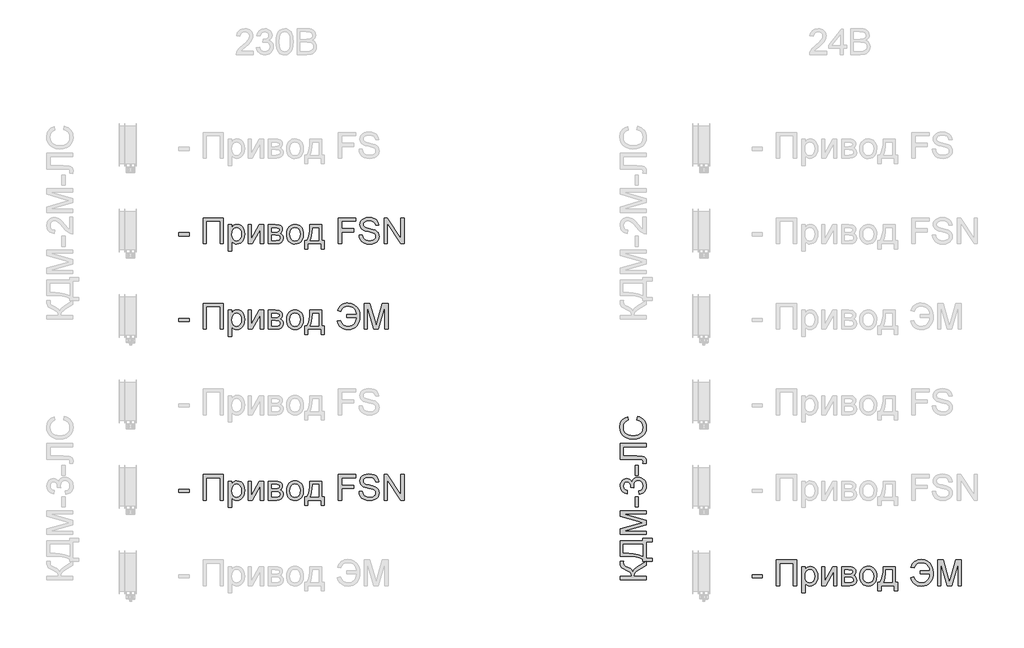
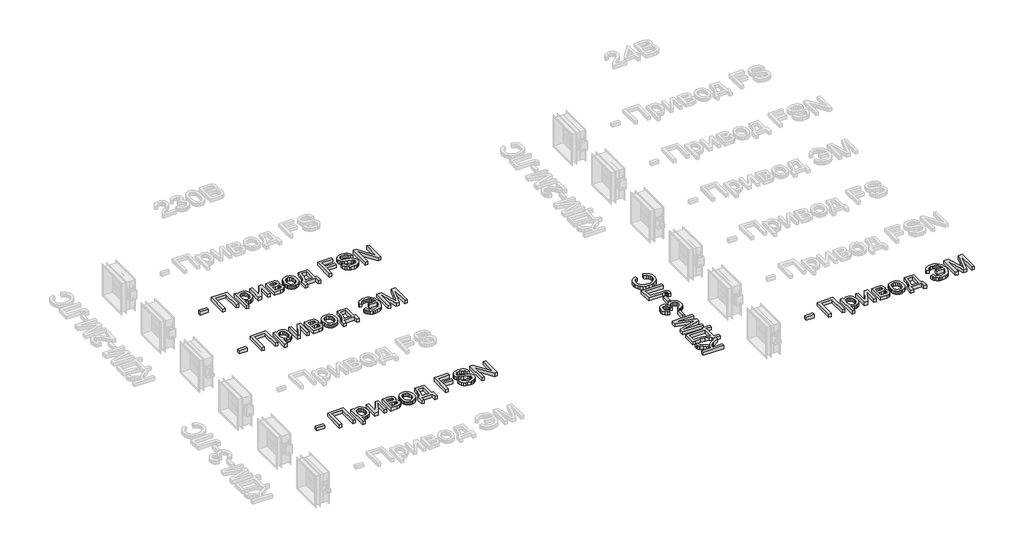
# One storey, part 2 of 23: 5 proxies.
"""IFC4 building model written with IfcOpenShell, lengths in millimetres."""

import ifcopenshell
import ifcopenshell.guid

model = None  # the IFC model being written
_history = None  # IfcOwnerHistory: only IFC2X3 demands one
_inside = {}  # id of a spatial element -> (the spatial element, [elements in it])
_under = {}  # id of a project, library or spatial element -> (it, [spatial elements below it])
_declared = {}  # id of a project -> (the project, [libraries it declares])
_typed = {}  # id of a type object -> (the type object, [elements of that type])
_made_of = {}  # id of a material, layer set ... -> (it, [elements and type objects made of it])


def new_model(schema):
    """Start an empty IFC model of exactly this schema.

    Asked for "IFC4X3", IfcOpenShell would pick the latest addendum, in which some entities
    have other attributes; the version numbers below select the first issue.
    IFC2X3 requires an IfcOwnerHistory on every rooted entity: one is made here for all.
    """
    global model, _history
    if schema == "IFC4X3":
        model = ifcopenshell.file(schema_version=(4, 3, 0, 0))
    else:
        model = ifcopenshell.file(schema=schema)
    _inside.clear()
    _under.clear()
    _declared.clear()
    _typed.clear()
    _made_of.clear()
    _history = None
    if model.schema == "IFC2X3":
        org = make("IfcOrganization", Name="unknown")
        user = make(
            "IfcPersonAndOrganization",
            ThePerson=make("IfcPerson", FamilyName="unknown"),
            TheOrganization=org,
        )
        app = make(
            "IfcApplication",
            ApplicationDeveloper=org,
            Version="unknown",
            ApplicationFullName="unknown",
            ApplicationIdentifier="unknown",
        )
        _history = make(
            "IfcOwnerHistory",
            OwningUser=user,
            OwningApplication=app,
            ChangeAction="ADDED",
            CreationDate=0,
        )
    return model


def make(cls, **values):
    """One entity of the class cls with the attributes given. An attribute that is None is left unset."""
    return model.create_entity(
        cls, **{name: value for name, value in values.items() if value is not None}
    )


def rooted(cls, **values):
    """An entity with a GlobalId (a new one), such as an element, a storey or a relation."""
    return make(cls, GlobalId=ifcopenshell.guid.new(), OwnerHistory=_history, **values)


def si_unit(unit_type, name, prefix=None):
    """IfcSIUnit, for example si_unit("LENGTHUNIT", "METRE", prefix="MILLI")."""
    return make("IfcSIUnit", UnitType=unit_type, Prefix=prefix, Name=name)


def assignment(units):
    """IfcUnitAssignment: the units of a project."""
    return None if units is None else make("IfcUnitAssignment", Units=units)


def point(xyz):
    """IfcCartesianPoint."""
    return None if xyz is None else make("IfcCartesianPoint", Coordinates=xyz)


def direction(xyz):
    """IfcDirection."""
    return None if xyz is None else make("IfcDirection", DirectionRatios=xyz)


def frame(location, z_axis=None, x_axis=None):
    """IfcAxis2Placement3D, a coordinate frame: its origin and axes. An axis left out is left unset."""
    return make(
        "IfcAxis2Placement3D",
        Location=point(location),
        Axis=direction(z_axis),
        RefDirection=direction(x_axis),
    )


def origin():
    """The frame at (0, 0, 0) with its axes left unset."""
    return frame((0.0, 0.0, 0.0))


def origin_with_axes():
    """The frame at (0, 0, 0) with the z axis (0, 0, 1) and the x axis (1, 0, 0) written out."""
    return frame((0.0, 0.0, 0.0), z_axis=(0.0, 0.0, 1.0), x_axis=(1.0, 0.0, 0.0))


def place(relative_to, where):
    """IfcLocalPlacement: puts the frame where relative to a parent placement (None: the world)."""
    return make(
        "IfcLocalPlacement", PlacementRelTo=relative_to, RelativePlacement=where
    )


def context(
    kind, dimensions, precision=None, world=None, true_north=None, identifier=None
):
    """IfcGeometricRepresentationContext, for example the 3D "Model" context."""
    return make(
        "IfcGeometricRepresentationContext",
        ContextIdentifier=identifier,
        ContextType=kind,
        CoordinateSpaceDimension=dimensions,
        Precision=precision,
        WorldCoordinateSystem=world,
        TrueNorth=true_north,
    )


def project(units=None, contexts=None):
    """IfcProject with its units and contexts."""
    return rooted(
        "IfcProject",
        Name="project",
        RepresentationContexts=contexts,
        UnitsInContext=assignment(units),
    )


def spatial(cls, under=None, at=None, **own):
    """A site, building, storey or space (cls), placed at a placement, below another one or the project."""
    s = rooted(cls, ObjectPlacement=at, **own)
    if under is not None:
        _under.setdefault(under.id(), (under, []))[1].append(s)
    return s


def polyline(points):
    """IfcPolyline through the points."""
    return make("IfcPolyline", Points=[point(p) for p in points])


def outline(outer, holes=None, kind="AREA"):
    """IfcArbitraryClosedProfileDef: a profile drawn as a closed curve; with holes, ...WithVoids."""
    if holes is None:
        return make("IfcArbitraryClosedProfileDef", ProfileType=kind, OuterCurve=outer)
    return make(
        "IfcArbitraryProfileDefWithVoids",
        ProfileType=kind,
        OuterCurve=outer,
        InnerCurves=holes,
    )


def extrude(swept, where, along, depth):
    """IfcExtrudedAreaSolid: the profile swept, set in the frame where, extruded along a direction by depth."""
    return make(
        "IfcExtrudedAreaSolid",
        SweptArea=swept,
        Position=where,
        ExtrudedDirection=direction(along),
        Depth=depth,
    )


def shape(context_of_items, identifier, shape_type, items):
    """IfcShapeRepresentation: the items that make up one representation, for example the "Body"."""
    return make(
        "IfcShapeRepresentation",
        ContextOfItems=context_of_items,
        RepresentationIdentifier=identifier,
        RepresentationType=shape_type,
        Items=items,
    )


def made_of(thing, what):
    """Note that an element or type object is made of a material, layer set ...; save() writes the relation."""
    if what is not None:
        _made_of.setdefault(what.id(), (what, []))[1].append(thing)
    return thing


def element(
    cls,
    number,
    at=None,
    inside=None,
    cuts=None,
    type_object=None,
    material=None,
    context=None,
    identifier="Body",
    shape_type=None,
    held_by="IfcProductDefinitionShape",
    body=None,
    shapes=None,
    **own,
):
    """One element of the class cls, such as IfcWall. Its Tag is "e" and its number.

    at: its placement. inside: the storey or other place that contains it. cuts: it is an
    opening in that element (IfcRelVoidsElement). A single representation is given by context,
    identifier, shape_type and body (its items); several are given by shapes. held_by: the class
    of the entity that holds the representations. save() writes the other relations.
    """
    e = rooted(cls, Tag="e%d" % number, ObjectPlacement=at, **own)
    if body is not None:
        shapes = [shape(context, identifier, shape_type, body)]
    if shapes is not None:
        e.Representation = make(held_by, Representations=shapes)
    if inside is not None:
        _inside.setdefault(inside.id(), (inside, []))[1].append(e)
    if cuts is not None:
        rooted(
            "IfcRelVoidsElement", RelatingBuildingElement=cuts, RelatedOpeningElement=e
        )
    if type_object is not None:
        _typed.setdefault(type_object.id(), (type_object, []))[1].append(e)
    return made_of(e, material)


def aggregate(whole, parts):
    """IfcRelAggregates: a whole, such as a stair, and the parts it consists of."""
    return rooted("IfcRelAggregates", RelatingObject=whole, RelatedObjects=parts)


def save(model, path):
    """Write the relations noted so far, then the file.

    IfcRelAggregates (storeys below a building ...), IfcRelContainedInSpatialStructure (elements
    in a storey), IfcRelDefinesByType, IfcRelAssociatesMaterial and IfcRelDeclares: one each for
    every whole, place, type object, material and project.
    """
    for whole, parts in _under.values():
        aggregate(whole, parts)
    for where, things in _inside.values():
        rooted(
            "IfcRelContainedInSpatialStructure",
            RelatedElements=things,
            RelatingStructure=where,
        )
    for kind, things in _typed.values():
        rooted("IfcRelDefinesByType", RelatedObjects=things, RelatingType=kind)
    for what, things in _made_of.values():
        rooted("IfcRelAssociatesMaterial", RelatedObjects=things, RelatingMaterial=what)
    for by, libraries in _declared.values():
        rooted("IfcRelDeclares", RelatingContext=by, RelatedDefinitions=libraries)
    model.write(path)


model = new_model("IFC4")

# Units and contexts
model_context = context("Model", 3, world=origin())
ifc_project = project(units=[si_unit("LENGTHUNIT", "METRE", prefix="MILLI")], contexts=[model_context])

# Site, building, storey
site = spatial("IfcSite", under=ifc_project)
building = spatial("IfcBuilding", under=site)
storey = spatial("IfcBuildingStorey", under=building, Name="Этаж 01", Elevation=0.0)

# Proxies
placement = place(None, origin())
element("IfcBuildingElementProxy", 1, Name="300 мм Arial", ObjectType="300 мм Arial", at=placement, inside=storey, context=model_context, shape_type="SweptSolid", body=[
    extrude(outline(polyline([(2804.7738082, -16034.3206311), (2804.7738082, -15996.6495148), (2922.4960467, -15996.6495148), (2922.4960467, -16034.3206311), (2804.7738082, -16034.3206311)])), origin_with_axes(), (0.0, 0.0, 1.0), 50.0),
    extrude(outline(polyline([(3087.3071805, -15822.4206019), (3322.7516574, -15822.4206019), (3322.7516574, -16123.7895324), (3285.0805411, -16123.7895324), (3285.0805411, -15860.0917182), (3124.9782968, -15860.0917182), (3124.9782968, -16123.7895324), (3087.3071805, -16123.7895324), (3087.3071805, -15822.4206019)])), origin_with_axes(), (0.0, 0.0, 1.0), 50.0),
    extrude(outline(polyline([(3383.9672214, -16208.5495441), (3383.9672214, -15902.4717241), (3421.6383378, -15902.4717241), (3421.6383378, -15939.4070764), (3433.9255964, -15921.1877206), (3447.684383, -15908.173895), (3463.724038, -15900.3655996), (3482.8539017, -15897.7628345), (3508.3297299, -15901.4048663), (3530.6049847, -15912.3309615), (3548.7415671, -15929.8789327), (3561.8013779, -15953.3865922), (3569.6924467, -15981.1432887), (3572.322803, -16011.438371), (3569.3521559, -16043.6556368), (3560.4402145, -16072.469994), (3545.8720875, -16096.4191119), (3525.9328834, -16114.0406595), (3502.7103324, -16124.8839813), (3478.292165, -16128.4984219), (3460.9741201, -16126.0795978), (3445.5138792, -16118.8231254), (3432.2793245, -16107.869439), (3421.6383378, -16094.3589728), (3421.6383378, -16208.5495441), (3383.9672214, -16208.5495441)]), holes=[polyline([(3421.6383378, -16014.8964618), (3425.7126308, -16048.668029), (3437.9355101, -16072.286053), (3455.970925, -16086.1919925), (3477.4828246, -16090.8273056), (3499.3442122, -16086.0264456), (3517.8394795, -16071.6238655), (3530.4486349, -16047.1413187), (3534.6516867, -16012.1005586), (3530.5498024, -15978.5129325), (3518.2441497, -15954.5638146), (3500.236326, -15940.2164168), (3479.027929, -15935.4339508), (3457.7367585, -15940.5199194), (3439.0391561, -15955.7778252), (3425.9885423, -15980.7294215), (3421.6383378, -16014.8964618)])]), origin_with_axes(), (0.0, 0.0, 1.0), 50.0),
    extrude(outline(polyline([(3614.7028088, -15902.4717241), (3652.3739251, -15902.4717241), (3652.3739251, -16071.2559835), (3744.9330351, -15902.4717241), (3793.6406113, -15902.4717241), (3793.6406113, -16123.7895324), (3755.969495, -16123.7895324), (3755.969495, -15956.0353426), (3663.9989962, -16123.7895324), (3614.7028088, -16123.7895324), (3614.7028088, -15902.4717241)])), origin_with_axes(), (0.0, 0.0, 1.0), 50.0),
    extrude(outline(polyline([(3850.1472857, -15902.4717241), (3933.1414638, -15902.4717241), (3959.8221055, -15903.7317199), (3978.6484666, -15907.5117074), (3992.4992238, -15914.6486181), (4004.2530535, -15925.9793836), (4012.2820781, -15940.7406486), (4014.9584196, -15958.1690581), (4013.3397388, -15972.2129533), (4008.4836965, -15984.325468), (4000.3718985, -15994.5617845), (3988.9859507, -16002.9770852), (4002.9286783, -16010.8037746), (4014.296232, -16023.3945359), (4021.856207, -16039.7560876), (4024.3761986, -16058.8951484), (4017.993446, -16087.6083381), (4002.8183137, -16107.8234538), (3978.7956194, -16119.7980127), (3945.8701809, -16123.7895324), (3850.1472857, -16123.7895324), (3850.1472857, -15902.4717241)]), holes=[polyline([(3887.818402, -16086.1184161), (3934.0243806, -16086.1184161), (3959.2059032, -16084.4169618), (3975.0064349, -16079.3125992), (3983.4861149, -16070.0327758), (3986.7050823, -16055.8049397), (3985.0955986, -16046.3779635), (3980.2671474, -16037.6683573), (3972.8543252, -16030.8533433), (3963.4917284, -16027.110144), (3930.3455607, -16024.9028521), (3887.818402, -16024.9028521), (3887.818402, -16086.1184161)]), polyline([(3887.818402, -15987.2317358), (3925.04806, -15987.2317358), (3955.7662065, -15985.3187494), (3970.7022156, -15977.6668039), (3975.6410313, -15971.3392336), (3977.2873033, -15963.8344409), (3974.3994296, -15952.5956459), (3965.7358086, -15945.3667647), (3950.0824297, -15941.4488215), (3926.2252823, -15940.1428404), (3887.818402, -15940.1428404), (3887.818402, -15987.2317358)])]), origin_with_axes(), (0.0, 0.0, 1.0), 50.0),
    extrude(outline(polyline([(4062.047315, -16013.1306282), (4064.0844615, -15984.4680223), (4070.1959011, -15959.7693448), (4080.3816339, -15939.0345959), (4094.6416597, -15922.2637754), (4108.9982546, -15911.5446138), (4124.8447715, -15903.8880698), (4142.1812106, -15899.2941433), (4161.0075717, -15897.7628345), (4181.7906051, -15899.6275364), (4200.5824773, -15905.221642), (4217.3831882, -15914.5451513), (4232.1927377, -15927.5980643), (4244.2799605, -15943.9389227), (4252.9136911, -15963.126268), (4258.0939294, -15985.1601003), (4259.8206756, -16010.0404195), (4256.767255, -16048.0978119), (4247.6069933, -16077.068519), (4232.606605, -16098.7643596), (4212.0328044, -16114.9971527), (4187.5962429, -16125.1231046), (4161.0075717, -16128.4984219), (4139.9210355, -16126.6406178), (4120.9544194, -16121.0672056), (4104.1077233, -16111.7781852), (4089.3809472, -16098.7735567), (4077.4224831, -16082.2740492), (4068.880723, -16062.500392), (4063.755667, -16039.452585), (4062.047315, -16013.1306282)]), holes=[polyline([(4099.7184313, -16013.0570518), (4104.0778329, -16047.1505157), (4117.1560378, -16071.4399245), (4136.8377246, -16085.9804603), (4161.0075717, -16090.8273056), (4185.0670541, -16085.9528692), (4204.7119527, -16071.3295599), (4217.7901576, -16046.7182544), (4222.1495593, -16011.8798294), (4217.7625665, -15978.7796469), (4204.6015881, -15954.821332), (4184.9290984, -15940.2807961), (4161.0075717, -15935.4339508), (4136.8377246, -15940.262402), (4117.1560378, -15954.7477556), (4104.0778329, -15978.981982), (4099.7184313, -16013.0570518)])]), origin_with_axes(), (0.0, 0.0, 1.0), 50.0),
    extrude(outline(polyline([(4335.1629082, -15902.4717241), (4476.4295943, -15902.4717241), (4476.4295943, -16086.1184161), (4504.6829316, -16086.1184161), (4504.6829316, -16185.0050964), (4467.0118152, -16185.0050964), (4467.0118152, -16123.7895324), (4311.6184605, -16123.7895324), (4311.6184605, -16185.0050964), (4273.9473442, -16185.0050964), (4273.9473442, -16086.1184161), (4297.4917919, -16086.1184161), (4314.6075017, -16055.1887373), (4326.5912577, -16014.2710624), (4333.4430598, -15963.3653913), (4335.1629082, -15902.4717241)]), holes=[polyline([(4368.1251349, -15940.1428404), (4365.0349262, -15986.2660455), (4359.2959671, -16025.9697099), (4350.9082576, -16059.2538334), (4339.8717977, -16086.1184161), (4438.758478, -16086.1184161), (4438.758478, -15940.1428404), (4368.1251349, -15940.1428404)])]), origin_with_axes(), (0.0, 0.0, 1.0), 50.0),
    extrude(outline(polyline([(4669.4940654, -16123.7895324), (4669.4940654, -15822.4206019), (4871.9763155, -15822.4206019), (4871.9763155, -15860.0917182), (4707.1651817, -15860.0917182), (4707.1651817, -15949.5606195), (4848.4318678, -15949.5606195), (4848.4318678, -15987.2317358), (4707.1651817, -15987.2317358), (4707.1651817, -16123.7895324), (4669.4940654, -16123.7895324)])), origin_with_axes(), (0.0, 0.0, 1.0), 50.0),
    extrude(outline(polyline([(4909.6474318, -16020.1939625), (4947.3185481, -16020.1939625), (4951.6411616, -16041.0988569), (4959.458654, -16057.901867), (4971.6539421, -16071.2375894), (4989.1099428, -16081.7406203), (5010.4470985, -16088.5556343), (5034.2858518, -16090.8273056), (5055.2735196, -16089.1074573), (5073.6492253, -16083.9479123), (5088.539249, -16075.780932), (5099.0698712, -16065.0387777), (5105.3330621, -16052.7055339), (5107.4207924, -16039.7652847), (5105.857294, -16027.1561293), (5101.1667985, -16016.2576252), (5091.6386549, -16006.9594078), (5075.5622117, -15999.1511124), (5020.7110062, -15984.7669264), (4984.7045559, -15975.2479798), (4961.665946, -15966.1888856), (4942.9131613, -15953.5153509), (4929.6234242, -15938.1562776), (4921.7047642, -15920.4427595), (4919.0652109, -15900.7058905), (4922.3301636, -15878.6421678), (4932.1250217, -15858.0683673), (4948.1922679, -15840.6307607), (4970.2743846, -15827.97562), (4996.7802824, -15820.2776893), (5026.1188715, -15817.7117124), (5057.9038759, -15820.3972509), (5085.7157547, -15828.4538666), (5108.5612266, -15841.7160126), (5125.4470102, -15860.0181418), (5136.1339822, -15882.2198202), (5140.3830192, -15907.1806136), (5102.7119029, -15907.1806136), (5095.7957214, -15884.7030237), (5081.3747472, -15868.4794277), (5058.841975, -15858.6569784), (5027.5903995, -15855.3828287), (4995.60306, -15858.6201902), (4973.658899, -15868.3322749), (4960.9669702, -15882.6244904), (4956.7363272, -15899.6022445), (4959.7345655, -15914.078401), (4968.7292803, -15925.7218662), (4989.9928596, -15936.1329266), (5030.2391499, -15946.7647163), (5071.7730271, -15956.8630771), (5096.8993674, -15965.6738508), (5118.3744789, -15979.340667), (5133.3564731, -15996.2080564), (5142.1580498, -16016.0920783), (5145.0919088, -16038.8087915), (5141.7165914, -16062.0313424), (5131.5906395, -16083.8743359), (5115.1279202, -16102.6731058), (5092.7423008, -16116.7629863), (5065.8225358, -16125.564563), (5035.7573798, -16128.4984219), (4998.8496186, -16125.3346367), (4968.4717629, -16115.8432813), (4944.2743246, -16099.9875673), (4925.907816, -16077.7307066), (4914.1171981, -16050.6178035), (4909.6474318, -16020.1939625)])), origin_with_axes(), (0.0, 0.0, 1.0), 50.0),
    extrude(outline(polyline([(5201.5985832, -16123.7895324), (5201.5985832, -15822.4206019), (5241.9184499, -15822.4206019), (5399.3719438, -16061.1760168), (5399.3719438, -15822.4206019), (5437.0430601, -15822.4206019), (5437.0430601, -16123.7895324), (5396.7231935, -16123.7895324), (5239.2696995, -15884.9605411), (5239.2696995, -16123.7895324), (5201.5985832, -16123.7895324)])), origin_with_axes(), (0.0, 0.0, 1.0), 50.0),
])
element("IfcBuildingElementProxy", 2, Name="300 мм Arial", ObjectType="300 мм Arial", at=placement, inside=storey, context=model_context, shape_type="SweptSolid", body=[
    extrude(outline(polyline([(2804.7738082, -17034.3206311), (2804.7738082, -16996.6495148), (2922.4960467, -16996.6495148), (2922.4960467, -17034.3206311), (2804.7738082, -17034.3206311)])), origin_with_axes(), (0.0, 0.0, 1.0), 50.0),
    extrude(outline(polyline([(3087.3071805, -16822.4206019), (3322.7516574, -16822.4206019), (3322.7516574, -17123.7895324), (3285.0805411, -17123.7895324), (3285.0805411, -16860.0917182), (3124.9782968, -16860.0917182), (3124.9782968, -17123.7895324), (3087.3071805, -17123.7895324), (3087.3071805, -16822.4206019)])), origin_with_axes(), (0.0, 0.0, 1.0), 50.0),
    extrude(outline(polyline([(3383.9672214, -17208.5495441), (3383.9672214, -16902.4717241), (3421.6383378, -16902.4717241), (3421.6383378, -16939.4070764), (3433.9255964, -16921.1877206), (3447.684383, -16908.173895), (3463.724038, -16900.3655996), (3482.8539017, -16897.7628345), (3508.3297299, -16901.4048663), (3530.6049847, -16912.3309615), (3548.7415671, -16929.8789327), (3561.8013779, -16953.3865922), (3569.6924467, -16981.1432887), (3572.322803, -17011.438371), (3569.3521559, -17043.6556368), (3560.4402145, -17072.469994), (3545.8720875, -17096.4191119), (3525.9328834, -17114.0406595), (3502.7103324, -17124.8839813), (3478.292165, -17128.4984219), (3460.9741201, -17126.0795978), (3445.5138792, -17118.8231254), (3432.2793245, -17107.869439), (3421.6383378, -17094.3589728), (3421.6383378, -17208.5495441), (3383.9672214, -17208.5495441)]), holes=[polyline([(3421.6383378, -17014.8964618), (3425.7126308, -17048.668029), (3437.9355101, -17072.286053), (3455.970925, -17086.1919925), (3477.4828246, -17090.8273056), (3499.3442122, -17086.0264456), (3517.8394795, -17071.6238655), (3530.4486349, -17047.1413187), (3534.6516867, -17012.1005586), (3530.5498024, -16978.5129325), (3518.2441497, -16954.5638146), (3500.236326, -16940.2164168), (3479.027929, -16935.4339508), (3457.7367585, -16940.5199194), (3439.0391561, -16955.7778252), (3425.9885423, -16980.7294215), (3421.6383378, -17014.8964618)])]), origin_with_axes(), (0.0, 0.0, 1.0), 50.0),
    extrude(outline(polyline([(3614.7028088, -16902.4717241), (3652.3739251, -16902.4717241), (3652.3739251, -17071.2559835), (3744.9330351, -16902.4717241), (3793.6406113, -16902.4717241), (3793.6406113, -17123.7895324), (3755.969495, -17123.7895324), (3755.969495, -16956.0353426), (3663.9989962, -17123.7895324), (3614.7028088, -17123.7895324), (3614.7028088, -16902.4717241)])), origin_with_axes(), (0.0, 0.0, 1.0), 50.0),
    extrude(outline(polyline([(3850.1472857, -16902.4717241), (3933.1414638, -16902.4717241), (3959.8221055, -16903.7317199), (3978.6484666, -16907.5117074), (3992.4992238, -16914.6486181), (4004.2530535, -16925.9793836), (4012.2820781, -16940.7406486), (4014.9584196, -16958.1690581), (4013.3397388, -16972.2129533), (4008.4836965, -16984.325468), (4000.3718985, -16994.5617845), (3988.9859507, -17002.9770852), (4002.9286783, -17010.8037746), (4014.296232, -17023.3945359), (4021.856207, -17039.7560876), (4024.3761986, -17058.8951484), (4017.993446, -17087.6083381), (4002.8183137, -17107.8234538), (3978.7956194, -17119.7980127), (3945.8701809, -17123.7895324), (3850.1472857, -17123.7895324), (3850.1472857, -16902.4717241)]), holes=[polyline([(3887.818402, -17086.1184161), (3934.0243806, -17086.1184161), (3959.2059032, -17084.4169618), (3975.0064349, -17079.3125992), (3983.4861149, -17070.0327758), (3986.7050823, -17055.8049397), (3985.0955986, -17046.3779635), (3980.2671474, -17037.6683573), (3972.8543252, -17030.8533433), (3963.4917284, -17027.110144), (3930.3455607, -17024.9028521), (3887.818402, -17024.9028521), (3887.818402, -17086.1184161)]), polyline([(3887.818402, -16987.2317358), (3925.04806, -16987.2317358), (3955.7662065, -16985.3187494), (3970.7022156, -16977.6668039), (3975.6410313, -16971.3392336), (3977.2873033, -16963.8344409), (3974.3994296, -16952.5956459), (3965.7358086, -16945.3667647), (3950.0824297, -16941.4488215), (3926.2252823, -16940.1428404), (3887.818402, -16940.1428404), (3887.818402, -16987.2317358)])]), origin_with_axes(), (0.0, 0.0, 1.0), 50.0),
    extrude(outline(polyline([(4062.047315, -17013.1306282), (4064.0844615, -16984.4680223), (4070.1959011, -16959.7693448), (4080.3816339, -16939.0345959), (4094.6416597, -16922.2637754), (4108.9982546, -16911.5446138), (4124.8447715, -16903.8880698), (4142.1812106, -16899.2941433), (4161.0075717, -16897.7628345), (4181.7906051, -16899.6275364), (4200.5824773, -16905.221642), (4217.3831882, -16914.5451513), (4232.1927377, -16927.5980643), (4244.2799605, -16943.9389227), (4252.9136911, -16963.126268), (4258.0939294, -16985.1601003), (4259.8206756, -17010.0404195), (4256.767255, -17048.0978119), (4247.6069933, -17077.068519), (4232.606605, -17098.7643596), (4212.0328044, -17114.9971527), (4187.5962429, -17125.1231046), (4161.0075717, -17128.4984219), (4139.9210355, -17126.6406178), (4120.9544194, -17121.0672056), (4104.1077233, -17111.7781852), (4089.3809472, -17098.7735567), (4077.4224831, -17082.2740492), (4068.880723, -17062.500392), (4063.755667, -17039.452585), (4062.047315, -17013.1306282)]), holes=[polyline([(4099.7184313, -17013.0570518), (4104.0778329, -17047.1505157), (4117.1560378, -17071.4399245), (4136.8377246, -17085.9804603), (4161.0075717, -17090.8273056), (4185.0670541, -17085.9528692), (4204.7119527, -17071.3295599), (4217.7901576, -17046.7182544), (4222.1495593, -17011.8798294), (4217.7625665, -16978.7796469), (4204.6015881, -16954.821332), (4184.9290984, -16940.2807961), (4161.0075717, -16935.4339508), (4136.8377246, -16940.262402), (4117.1560378, -16954.7477556), (4104.0778329, -16978.981982), (4099.7184313, -17013.0570518)])]), origin_with_axes(), (0.0, 0.0, 1.0), 50.0),
    extrude(outline(polyline([(4335.1629082, -16902.4717241), (4476.4295943, -16902.4717241), (4476.4295943, -17086.1184161), (4504.6829316, -17086.1184161), (4504.6829316, -17185.0050964), (4467.0118152, -17185.0050964), (4467.0118152, -17123.7895324), (4311.6184605, -17123.7895324), (4311.6184605, -17185.0050964), (4273.9473442, -17185.0050964), (4273.9473442, -17086.1184161), (4297.4917919, -17086.1184161), (4314.6075017, -17055.1887373), (4326.5912577, -17014.2710624), (4333.4430598, -16963.3653913), (4335.1629082, -16902.4717241)]), holes=[polyline([(4368.1251349, -16940.1428404), (4365.0349262, -16986.2660455), (4359.2959671, -17025.9697099), (4350.9082576, -17059.2538334), (4339.8717977, -17086.1184161), (4438.758478, -17086.1184161), (4438.758478, -16940.1428404), (4368.1251349, -16940.1428404)])]), origin_with_axes(), (0.0, 0.0, 1.0), 50.0),
    extrude(outline(polyline([(4768.3807457, -16949.5606195), (4881.3940946, -16949.5606195), (4878.6947605, -16929.0121108), (4873.0983556, -16910.7030837), (4864.6048801, -16894.6335383), (4853.2143338, -16880.8034746), (4839.1520445, -16869.681942), (4822.64334, -16861.7379902), (4803.6882202, -16856.9716191), (4782.2866851, -16855.3828287), (4751.8674426, -16859.2088014), (4727.6378147, -16870.6867197), (4709.5978014, -16889.8165834), (4697.7474026, -16916.5983927), (4660.0762863, -16907.1806136), (4666.8637091, -16887.2873947), (4676.1895177, -16869.6934383), (4688.053712, -16854.3987444), (4702.4562922, -16841.4033129), (4719.0799598, -16831.0382377), (4737.6074168, -16823.6346125), (4758.0386631, -16819.1924374), (4780.3736987, -16817.7117124), (4821.4477235, -16823.1471689), (4856.3781189, -16839.4535383), (4884.1256184, -16864.2119966), (4903.6509553, -16895.0037196), (4915.211647, -16930.6054997), (4919.0652109, -16969.7941292), (4917.8925871, -17002.0136942), (4912.0938471, -17031.5707132), (4901.6689911, -17058.4651863), (4886.6180189, -17082.6971135), (4866.9777189, -17102.7351859), (4842.7848792, -17117.0480948), (4814.0394998, -17125.6358401), (4780.7415807, -17128.4984219), (4757.0545788, -17126.9533175), (4735.6576422, -17122.3180044), (4716.5507711, -17114.5924825), (4699.7339654, -17103.7767518), (4685.2072251, -17089.8708124), (4672.9705502, -17072.8746642), (4663.0239408, -17052.7883073), (4655.3673968, -17029.6117416), (4693.0385131, -17020.1939625), (4705.7672301, -17051.0960501), (4725.3385523, -17073.1689698), (4751.7524795, -17086.4127217), (4785.0090119, -17090.8273056), (4804.7182898, -17089.0936617), (4822.5697636, -17083.89273), (4838.5634333, -17075.2245105), (4852.699299, -17063.0890032), (4864.3979464, -17047.9460605), (4873.0799615, -17030.2555351), (4878.7453442, -17010.0174268), (4881.3940946, -16987.2317358), (4768.3807457, -16987.2317358), (4768.3807457, -16949.5606195)])), origin_with_axes(), (0.0, 0.0, 1.0), 50.0),
    extrude(outline(polyline([(4970.8629958, -17123.7895324), (4970.8629958, -16822.4206019), (5035.6838034, -16822.4206019), (5097.3408258, -17034.8356659), (5109.7752372, -17079.2022346), (5123.2397182, -17031.156846), (5183.866671, -16822.4206019), (5248.6874786, -16822.4206019), (5248.6874786, -17123.7895324), (5211.0163623, -17123.7895324), (5211.0163623, -16860.0917182), (5135.3062477, -17123.7895324), (5084.2442268, -17123.7895324), (5008.5341121, -16860.0917182), (5008.5341121, -17123.7895324), (4970.8629958, -17123.7895324)])), origin_with_axes(), (0.0, 0.0, 1.0), 50.0),
])
element("IfcBuildingElementProxy", 3, Name="300 мм Arial", ObjectType="300 мм Arial", at=placement, inside=storey, context=model_context, shape_type="SweptSolid", body=[
    extrude(outline(polyline([(2804.7738082, -19034.3206311), (2804.7738082, -18996.6495148), (2922.4960467, -18996.6495148), (2922.4960467, -19034.3206311), (2804.7738082, -19034.3206311)])), origin_with_axes(), (0.0, 0.0, 1.0), 50.0),
    extrude(outline(polyline([(3087.3071805, -18822.4206019), (3322.7516574, -18822.4206019), (3322.7516574, -19123.7895324), (3285.0805411, -19123.7895324), (3285.0805411, -18860.0917182), (3124.9782968, -18860.0917182), (3124.9782968, -19123.7895324), (3087.3071805, -19123.7895324), (3087.3071805, -18822.4206019)])), origin_with_axes(), (0.0, 0.0, 1.0), 50.0),
    extrude(outline(polyline([(3383.9672214, -19208.5495441), (3383.9672214, -18902.4717241), (3421.6383378, -18902.4717241), (3421.6383378, -18939.4070764), (3433.9255964, -18921.1877206), (3447.684383, -18908.173895), (3463.724038, -18900.3655996), (3482.8539017, -18897.7628345), (3508.3297299, -18901.4048663), (3530.6049847, -18912.3309615), (3548.7415671, -18929.8789327), (3561.8013779, -18953.3865922), (3569.6924467, -18981.1432887), (3572.322803, -19011.438371), (3569.3521559, -19043.6556368), (3560.4402145, -19072.469994), (3545.8720875, -19096.4191119), (3525.9328834, -19114.0406595), (3502.7103324, -19124.8839813), (3478.292165, -19128.4984219), (3460.9741201, -19126.0795978), (3445.5138792, -19118.8231254), (3432.2793245, -19107.869439), (3421.6383378, -19094.3589728), (3421.6383378, -19208.5495441), (3383.9672214, -19208.5495441)]), holes=[polyline([(3421.6383378, -19014.8964618), (3425.7126308, -19048.668029), (3437.9355101, -19072.286053), (3455.970925, -19086.1919925), (3477.4828246, -19090.8273056), (3499.3442122, -19086.0264456), (3517.8394795, -19071.6238655), (3530.4486349, -19047.1413187), (3534.6516867, -19012.1005586), (3530.5498024, -18978.5129325), (3518.2441497, -18954.5638146), (3500.236326, -18940.2164168), (3479.027929, -18935.4339508), (3457.7367585, -18940.5199194), (3439.0391561, -18955.7778252), (3425.9885423, -18980.7294215), (3421.6383378, -19014.8964618)])]), origin_with_axes(), (0.0, 0.0, 1.0), 50.0),
    extrude(outline(polyline([(3614.7028088, -18902.4717241), (3652.3739251, -18902.4717241), (3652.3739251, -19071.2559835), (3744.9330351, -18902.4717241), (3793.6406113, -18902.4717241), (3793.6406113, -19123.7895324), (3755.969495, -19123.7895324), (3755.969495, -18956.0353426), (3663.9989962, -19123.7895324), (3614.7028088, -19123.7895324), (3614.7028088, -18902.4717241)])), origin_with_axes(), (0.0, 0.0, 1.0), 50.0),
    extrude(outline(polyline([(3850.1472857, -18902.4717241), (3933.1414638, -18902.4717241), (3959.8221055, -18903.7317199), (3978.6484666, -18907.5117074), (3992.4992238, -18914.6486181), (4004.2530535, -18925.9793836), (4012.2820781, -18940.7406486), (4014.9584196, -18958.1690581), (4013.3397388, -18972.2129533), (4008.4836965, -18984.325468), (4000.3718985, -18994.5617845), (3988.9859507, -19002.9770852), (4002.9286783, -19010.8037746), (4014.296232, -19023.3945359), (4021.856207, -19039.7560876), (4024.3761986, -19058.8951484), (4017.993446, -19087.6083381), (4002.8183137, -19107.8234538), (3978.7956194, -19119.7980127), (3945.8701809, -19123.7895324), (3850.1472857, -19123.7895324), (3850.1472857, -18902.4717241)]), holes=[polyline([(3887.818402, -19086.1184161), (3934.0243806, -19086.1184161), (3959.2059032, -19084.4169618), (3975.0064349, -19079.3125992), (3983.4861149, -19070.0327758), (3986.7050823, -19055.8049397), (3985.0955986, -19046.3779635), (3980.2671474, -19037.6683573), (3972.8543252, -19030.8533433), (3963.4917284, -19027.110144), (3930.3455607, -19024.9028521), (3887.818402, -19024.9028521), (3887.818402, -19086.1184161)]), polyline([(3887.818402, -18987.2317358), (3925.04806, -18987.2317358), (3955.7662065, -18985.3187494), (3970.7022156, -18977.6668039), (3975.6410313, -18971.3392336), (3977.2873033, -18963.8344409), (3974.3994296, -18952.5956459), (3965.7358086, -18945.3667647), (3950.0824297, -18941.4488215), (3926.2252823, -18940.1428404), (3887.818402, -18940.1428404), (3887.818402, -18987.2317358)])]), origin_with_axes(), (0.0, 0.0, 1.0), 50.0),
    extrude(outline(polyline([(4062.047315, -19013.1306282), (4064.0844615, -18984.4680223), (4070.1959011, -18959.7693448), (4080.3816339, -18939.0345959), (4094.6416597, -18922.2637754), (4108.9982546, -18911.5446138), (4124.8447715, -18903.8880698), (4142.1812106, -18899.2941433), (4161.0075717, -18897.7628345), (4181.7906051, -18899.6275364), (4200.5824773, -18905.221642), (4217.3831882, -18914.5451513), (4232.1927377, -18927.5980643), (4244.2799605, -18943.9389227), (4252.9136911, -18963.126268), (4258.0939294, -18985.1601003), (4259.8206756, -19010.0404195), (4256.767255, -19048.0978119), (4247.6069933, -19077.068519), (4232.606605, -19098.7643596), (4212.0328044, -19114.9971527), (4187.5962429, -19125.1231046), (4161.0075717, -19128.4984219), (4139.9210355, -19126.6406178), (4120.9544194, -19121.0672056), (4104.1077233, -19111.7781852), (4089.3809472, -19098.7735567), (4077.4224831, -19082.2740492), (4068.880723, -19062.500392), (4063.755667, -19039.452585), (4062.047315, -19013.1306282)]), holes=[polyline([(4099.7184313, -19013.0570518), (4104.0778329, -19047.1505157), (4117.1560378, -19071.4399245), (4136.8377246, -19085.9804603), (4161.0075717, -19090.8273056), (4185.0670541, -19085.9528692), (4204.7119527, -19071.3295599), (4217.7901576, -19046.7182544), (4222.1495593, -19011.8798294), (4217.7625665, -18978.7796469), (4204.6015881, -18954.821332), (4184.9290984, -18940.2807961), (4161.0075717, -18935.4339508), (4136.8377246, -18940.262402), (4117.1560378, -18954.7477556), (4104.0778329, -18978.981982), (4099.7184313, -19013.0570518)])]), origin_with_axes(), (0.0, 0.0, 1.0), 50.0),
    extrude(outline(polyline([(4335.1629082, -18902.4717241), (4476.4295943, -18902.4717241), (4476.4295943, -19086.1184161), (4504.6829316, -19086.1184161), (4504.6829316, -19185.0050964), (4467.0118152, -19185.0050964), (4467.0118152, -19123.7895324), (4311.6184605, -19123.7895324), (4311.6184605, -19185.0050964), (4273.9473442, -19185.0050964), (4273.9473442, -19086.1184161), (4297.4917919, -19086.1184161), (4314.6075017, -19055.1887373), (4326.5912577, -19014.2710624), (4333.4430598, -18963.3653913), (4335.1629082, -18902.4717241)]), holes=[polyline([(4368.1251349, -18940.1428404), (4365.0349262, -18986.2660455), (4359.2959671, -19025.9697099), (4350.9082576, -19059.2538334), (4339.8717977, -19086.1184161), (4438.758478, -19086.1184161), (4438.758478, -18940.1428404), (4368.1251349, -18940.1428404)])]), origin_with_axes(), (0.0, 0.0, 1.0), 50.0),
    extrude(outline(polyline([(4669.4940654, -19123.7895324), (4669.4940654, -18822.4206019), (4871.9763155, -18822.4206019), (4871.9763155, -18860.0917182), (4707.1651817, -18860.0917182), (4707.1651817, -18949.5606195), (4848.4318678, -18949.5606195), (4848.4318678, -18987.2317358), (4707.1651817, -18987.2317358), (4707.1651817, -19123.7895324), (4669.4940654, -19123.7895324)])), origin_with_axes(), (0.0, 0.0, 1.0), 50.0),
    extrude(outline(polyline([(4909.6474318, -19020.1939625), (4947.3185481, -19020.1939625), (4951.6411616, -19041.0988569), (4959.458654, -19057.901867), (4971.6539421, -19071.2375894), (4989.1099428, -19081.7406203), (5010.4470985, -19088.5556343), (5034.2858518, -19090.8273056), (5055.2735196, -19089.1074573), (5073.6492253, -19083.9479123), (5088.539249, -19075.780932), (5099.0698712, -19065.0387777), (5105.3330621, -19052.7055339), (5107.4207924, -19039.7652847), (5105.857294, -19027.1561293), (5101.1667985, -19016.2576252), (5091.6386549, -19006.9594078), (5075.5622117, -18999.1511124), (5020.7110062, -18984.7669264), (4984.7045559, -18975.2479798), (4961.665946, -18966.1888856), (4942.9131613, -18953.5153509), (4929.6234242, -18938.1562776), (4921.7047642, -18920.4427595), (4919.0652109, -18900.7058905), (4922.3301636, -18878.6421678), (4932.1250217, -18858.0683673), (4948.1922679, -18840.6307607), (4970.2743846, -18827.97562), (4996.7802824, -18820.2776893), (5026.1188715, -18817.7117124), (5057.9038759, -18820.3972509), (5085.7157547, -18828.4538666), (5108.5612266, -18841.7160126), (5125.4470102, -18860.0181418), (5136.1339822, -18882.2198202), (5140.3830192, -18907.1806136), (5102.7119029, -18907.1806136), (5095.7957214, -18884.7030237), (5081.3747472, -18868.4794277), (5058.841975, -18858.6569784), (5027.5903995, -18855.3828287), (4995.60306, -18858.6201902), (4973.658899, -18868.3322749), (4960.9669702, -18882.6244904), (4956.7363272, -18899.6022445), (4959.7345655, -18914.078401), (4968.7292803, -18925.7218662), (4989.9928596, -18936.1329266), (5030.2391499, -18946.7647163), (5071.7730271, -18956.8630771), (5096.8993674, -18965.6738508), (5118.3744789, -18979.340667), (5133.3564731, -18996.2080564), (5142.1580498, -19016.0920783), (5145.0919088, -19038.8087915), (5141.7165914, -19062.0313424), (5131.5906395, -19083.8743359), (5115.1279202, -19102.6731058), (5092.7423008, -19116.7629863), (5065.8225358, -19125.564563), (5035.7573798, -19128.4984219), (4998.8496186, -19125.3346367), (4968.4717629, -19115.8432813), (4944.2743246, -19099.9875673), (4925.907816, -19077.7307066), (4914.1171981, -19050.6178035), (4909.6474318, -19020.1939625)])), origin_with_axes(), (0.0, 0.0, 1.0), 50.0),
    extrude(outline(polyline([(5201.5985832, -19123.7895324), (5201.5985832, -18822.4206019), (5241.9184499, -18822.4206019), (5399.3719438, -19061.1760168), (5399.3719438, -18822.4206019), (5437.0430601, -18822.4206019), (5437.0430601, -19123.7895324), (5396.7231935, -19123.7895324), (5239.2696995, -18884.9605411), (5239.2696995, -19123.7895324), (5201.5985832, -19123.7895324)])), origin_with_axes(), (0.0, 0.0, 1.0), 50.0),
])
element("IfcBuildingElementProxy", 4, Name="300 мм Arial", ObjectType="300 мм Arial", at=placement, inside=storey, context=model_context, shape_type="SweptSolid", body=[
    extrude(outline(polyline([(9504.7738082, -20034.3206311), (9504.7738082, -19996.6495148), (9622.4960467, -19996.6495148), (9622.4960467, -20034.3206311), (9504.7738082, -20034.3206311)])), origin_with_axes(), (0.0, 0.0, 1.0), 50.0),
    extrude(outline(polyline([(9787.3071805, -19822.4206019), (10022.7516574, -19822.4206019), (10022.7516574, -20123.7895324), (9985.0805411, -20123.7895324), (9985.0805411, -19860.0917182), (9824.9782968, -19860.0917182), (9824.9782968, -20123.7895324), (9787.3071805, -20123.7895324), (9787.3071805, -19822.4206019)])), origin_with_axes(), (0.0, 0.0, 1.0), 50.0),
    extrude(outline(polyline([(10083.9672214, -20208.5495441), (10083.9672214, -19902.4717241), (10121.6383378, -19902.4717241), (10121.6383378, -19939.4070764), (10133.9255964, -19921.1877206), (10147.684383, -19908.173895), (10163.724038, -19900.3655996), (10182.8539017, -19897.7628345), (10208.3297299, -19901.4048663), (10230.6049847, -19912.3309615), (10248.7415671, -19929.8789327), (10261.8013779, -19953.3865922), (10269.6924467, -19981.1432887), (10272.322803, -20011.438371), (10269.3521559, -20043.6556368), (10260.4402145, -20072.469994), (10245.8720875, -20096.4191119), (10225.9328834, -20114.0406595), (10202.7103324, -20124.8839813), (10178.292165, -20128.4984219), (10160.9741201, -20126.0795978), (10145.5138792, -20118.8231254), (10132.2793245, -20107.869439), (10121.6383378, -20094.3589728), (10121.6383378, -20208.5495441), (10083.9672214, -20208.5495441)]), holes=[polyline([(10121.6383378, -20014.8964618), (10125.7126308, -20048.668029), (10137.9355101, -20072.286053), (10155.970925, -20086.1919925), (10177.4828246, -20090.8273056), (10199.3442122, -20086.0264456), (10217.8394795, -20071.6238655), (10230.4486349, -20047.1413187), (10234.6516867, -20012.1005586), (10230.5498024, -19978.5129325), (10218.2441497, -19954.5638146), (10200.236326, -19940.2164168), (10179.027929, -19935.4339508), (10157.7367585, -19940.5199194), (10139.0391561, -19955.7778252), (10125.9885423, -19980.7294215), (10121.6383378, -20014.8964618)])]), origin_with_axes(), (0.0, 0.0, 1.0), 50.0),
    extrude(outline(polyline([(10314.7028088, -19902.4717241), (10352.3739251, -19902.4717241), (10352.3739251, -20071.2559835), (10444.9330351, -19902.4717241), (10493.6406113, -19902.4717241), (10493.6406113, -20123.7895324), (10455.969495, -20123.7895324), (10455.969495, -19956.0353426), (10363.9989962, -20123.7895324), (10314.7028088, -20123.7895324), (10314.7028088, -19902.4717241)])), origin_with_axes(), (0.0, 0.0, 1.0), 50.0),
    extrude(outline(polyline([(10550.1472857, -19902.4717241), (10633.1414638, -19902.4717241), (10659.8221055, -19903.7317199), (10678.6484666, -19907.5117074), (10692.4992238, -19914.6486181), (10704.2530535, -19925.9793836), (10712.2820781, -19940.7406486), (10714.9584196, -19958.1690581), (10713.3397388, -19972.2129533), (10708.4836965, -19984.325468), (10700.3718985, -19994.5617845), (10688.9859507, -20002.9770852), (10702.9286783, -20010.8037746), (10714.296232, -20023.3945359), (10721.856207, -20039.7560876), (10724.3761986, -20058.8951484), (10717.993446, -20087.6083381), (10702.8183137, -20107.8234538), (10678.7956194, -20119.7980127), (10645.8701809, -20123.7895324), (10550.1472857, -20123.7895324), (10550.1472857, -19902.4717241)]), holes=[polyline([(10587.818402, -20086.1184161), (10634.0243806, -20086.1184161), (10659.2059032, -20084.4169618), (10675.0064349, -20079.3125992), (10683.4861149, -20070.0327758), (10686.7050823, -20055.8049397), (10685.0955986, -20046.3779635), (10680.2671474, -20037.6683573), (10672.8543252, -20030.8533433), (10663.4917284, -20027.110144), (10630.3455607, -20024.9028521), (10587.818402, -20024.9028521), (10587.818402, -20086.1184161)]), polyline([(10587.818402, -19987.2317358), (10625.04806, -19987.2317358), (10655.7662065, -19985.3187494), (10670.7022156, -19977.6668039), (10675.6410313, -19971.3392336), (10677.2873033, -19963.8344409), (10674.3994296, -19952.5956459), (10665.7358086, -19945.3667647), (10650.0824297, -19941.4488215), (10626.2252823, -19940.1428404), (10587.818402, -19940.1428404), (10587.818402, -19987.2317358)])]), origin_with_axes(), (0.0, 0.0, 1.0), 50.0),
    extrude(outline(polyline([(10762.047315, -20013.1306282), (10764.0844615, -19984.4680223), (10770.1959011, -19959.7693448), (10780.3816339, -19939.0345959), (10794.6416597, -19922.2637754), (10808.9982546, -19911.5446138), (10824.8447715, -19903.8880698), (10842.1812106, -19899.2941433), (10861.0075717, -19897.7628345), (10881.7906051, -19899.6275364), (10900.5824773, -19905.221642), (10917.3831882, -19914.5451513), (10932.1927377, -19927.5980643), (10944.2799605, -19943.9389227), (10952.9136911, -19963.126268), (10958.0939294, -19985.1601003), (10959.8206756, -20010.0404195), (10956.767255, -20048.0978119), (10947.6069933, -20077.068519), (10932.606605, -20098.7643596), (10912.0328044, -20114.9971527), (10887.5962429, -20125.1231046), (10861.0075717, -20128.4984219), (10839.9210355, -20126.6406178), (10820.9544194, -20121.0672056), (10804.1077233, -20111.7781852), (10789.3809472, -20098.7735567), (10777.4224831, -20082.2740492), (10768.880723, -20062.500392), (10763.755667, -20039.452585), (10762.047315, -20013.1306282)]), holes=[polyline([(10799.7184313, -20013.0570518), (10804.0778329, -20047.1505157), (10817.1560378, -20071.4399245), (10836.8377246, -20085.9804603), (10861.0075717, -20090.8273056), (10885.0670541, -20085.9528692), (10904.7119527, -20071.3295599), (10917.7901576, -20046.7182544), (10922.1495593, -20011.8798294), (10917.7625665, -19978.7796469), (10904.6015881, -19954.821332), (10884.9290984, -19940.2807961), (10861.0075717, -19935.4339508), (10836.8377246, -19940.262402), (10817.1560378, -19954.7477556), (10804.0778329, -19978.981982), (10799.7184313, -20013.0570518)])]), origin_with_axes(), (0.0, 0.0, 1.0), 50.0),
    extrude(outline(polyline([(11035.1629082, -19902.4717241), (11176.4295943, -19902.4717241), (11176.4295943, -20086.1184161), (11204.6829316, -20086.1184161), (11204.6829316, -20185.0050964), (11167.0118152, -20185.0050964), (11167.0118152, -20123.7895324), (11011.6184605, -20123.7895324), (11011.6184605, -20185.0050964), (10973.9473442, -20185.0050964), (10973.9473442, -20086.1184161), (10997.4917919, -20086.1184161), (11014.6075017, -20055.1887373), (11026.5912577, -20014.2710624), (11033.4430598, -19963.3653913), (11035.1629082, -19902.4717241)]), holes=[polyline([(11068.1251349, -19940.1428404), (11065.0349262, -19986.2660455), (11059.2959671, -20025.9697099), (11050.9082576, -20059.2538334), (11039.8717977, -20086.1184161), (11138.758478, -20086.1184161), (11138.758478, -19940.1428404), (11068.1251349, -19940.1428404)])]), origin_with_axes(), (0.0, 0.0, 1.0), 50.0),
    extrude(outline(polyline([(11468.3807457, -19949.5606195), (11581.3940946, -19949.5606195), (11578.6947605, -19929.0121108), (11573.0983556, -19910.7030837), (11564.6048801, -19894.6335383), (11553.2143338, -19880.8034746), (11539.1520445, -19869.681942), (11522.64334, -19861.7379902), (11503.6882202, -19856.9716191), (11482.2866851, -19855.3828287), (11451.8674426, -19859.2088014), (11427.6378147, -19870.6867197), (11409.5978014, -19889.8165834), (11397.7474026, -19916.5983927), (11360.0762863, -19907.1806136), (11366.8637091, -19887.2873947), (11376.1895177, -19869.6934383), (11388.053712, -19854.3987444), (11402.4562922, -19841.4033129), (11419.0799598, -19831.0382377), (11437.6074168, -19823.6346125), (11458.0386631, -19819.1924374), (11480.3736987, -19817.7117124), (11521.4477235, -19823.1471689), (11556.3781189, -19839.4535383), (11584.1256184, -19864.2119966), (11603.6509553, -19895.0037196), (11615.211647, -19930.6054997), (11619.0652109, -19969.7941292), (11617.8925871, -20002.0136942), (11612.0938471, -20031.5707132), (11601.6689911, -20058.4651863), (11586.6180189, -20082.6971135), (11566.9777189, -20102.7351859), (11542.7848792, -20117.0480948), (11514.0394998, -20125.6358401), (11480.7415807, -20128.4984219), (11457.0545788, -20126.9533175), (11435.6576422, -20122.3180044), (11416.5507711, -20114.5924825), (11399.7339654, -20103.7767518), (11385.2072251, -20089.8708124), (11372.9705502, -20072.8746642), (11363.0239408, -20052.7883073), (11355.3673968, -20029.6117416), (11393.0385131, -20020.1939625), (11405.7672301, -20051.0960501), (11425.3385523, -20073.1689698), (11451.7524795, -20086.4127217), (11485.0090119, -20090.8273056), (11504.7182898, -20089.0936617), (11522.5697636, -20083.89273), (11538.5634333, -20075.2245105), (11552.699299, -20063.0890032), (11564.3979464, -20047.9460605), (11573.0799615, -20030.2555351), (11578.7453442, -20010.0174268), (11581.3940946, -19987.2317358), (11468.3807457, -19987.2317358), (11468.3807457, -19949.5606195)])), origin_with_axes(), (0.0, 0.0, 1.0), 50.0),
    extrude(outline(polyline([(11670.8629958, -20123.7895324), (11670.8629958, -19822.4206019), (11735.6838034, -19822.4206019), (11797.3408258, -20034.8356659), (11809.7752372, -20079.2022346), (11823.2397182, -20031.156846), (11883.866671, -19822.4206019), (11948.6874786, -19822.4206019), (11948.6874786, -20123.7895324), (11911.0163623, -20123.7895324), (11911.0163623, -19860.0917182), (11835.3062477, -20123.7895324), (11784.2442268, -20123.7895324), (11708.5341121, -19860.0917182), (11708.5341121, -20123.7895324), (11670.8629958, -20123.7895324)])), origin_with_axes(), (0.0, 0.0, 1.0), 50.0),
])
element("IfcBuildingElementProxy", 5, Name="300 мм Arial", ObjectType="300 мм Arial", at=placement, inside=storey, context=model_context, shape_type="SweptSolid", body=[
    extrude(outline(polyline([(7962.355345, -20052.3550656), (7962.355345, -20014.6839493), (8094.2042521, -20014.6839493), (8091.7118516, -19989.1805299), (8084.23465, -19972.5614608), (8066.6406936, -19959.1245709), (8033.7980285, -19943.1676894), (7991.6755401, -19922.3823567), (7980.2620012, -19912.3575723), (7970.8166309, -19898.837909), (7964.4706665, -19882.7890569), (7962.355345, -19865.1767064), (7962.7968034, -19840.4550363), (8000.4679197, -19840.4550363), (8000.2471905, -19848.7691694), (8000.0264613, -19857.0833025), (8002.2889356, -19874.3369681), (8009.0763584, -19886.5138621), (8023.3317857, -19896.998499), (8047.8511207, -19908.8810874), (8078.3853263, -19923.4584115), (8095.0871689, -19935.5525321), (8110.6853655, -19961.5617892), (8116.8933742, -19946.9706695), (8127.7183019, -19932.4807174), (8163.2189144, -19903.8043159), (8263.7242755, -19840.4550363), (8263.7242755, -19884.1594174), (8178.817111, -19937.7230359), (8151.5846463, -19958.407201), (8134.4873306, -19975.4309404), (8125.4650246, -19992.8409558), (8122.4575893, -20014.6839493), (8263.7242755, -20014.6839493), (8263.7242755, -20052.3550656), (7962.355345, -20052.3550656)])), origin_with_axes(), (0.0, 0.0, 1.0), 50.0),
    extrude(outline(polyline([(7962.355345, -19779.2394723), (7962.355345, -19600.3016699), (8226.0531592, -19600.3016699), (8226.0531592, -19572.0483327), (8334.3576186, -19572.0483327), (8334.3576186, -19609.719449), (8263.7242755, -19609.719449), (8263.7242755, -19802.78392), (8334.3576186, -19802.78392), (8334.3576186, -19840.4550363), (8263.7242755, -19840.4550363), (8226.0531592, -19840.4550363), (8226.0531592, -19816.9105887), (8191.8815204, -19800.4294753), (8143.8131392, -19788.6572514), (8081.8480156, -19781.5939171), (8005.9861497, -19779.2394723), (7962.355345, -19779.2394723)]), holes=[polyline([(8000.0264613, -19637.9727862), (8000.0264613, -19741.568356), (8015.1831995, -19741.568356), (8118.4108874, -19749.2203015), (8178.0629529, -19760.551067), (8226.0531592, -19779.2394723), (8226.0531592, -19637.9727862), (8000.0264613, -19637.9727862)])]), origin_with_axes(), (0.0, 0.0, 1.0), 50.0),
    extrude(outline(polyline([(8263.7242755, -19524.9594373), (7962.355345, -19524.9594373), (7962.355345, -19460.1386297), (8174.7704091, -19398.4816073), (8219.1369777, -19386.0471959), (8171.0915891, -19372.5827149), (7962.355345, -19311.9557621), (7962.355345, -19247.1349545), (8263.7242755, -19247.1349545), (8263.7242755, -19284.8060708), (8000.0264613, -19284.8060708), (8263.7242755, -19360.5161854), (8263.7242755, -19411.5782064), (8000.0264613, -19487.288321), (8263.7242755, -19487.288321), (8263.7242755, -19524.9594373)])), origin_with_axes(), (0.0, 0.0, 1.0), 50.0),
    extrude(outline(polyline([(8174.2553743, -19204.7549487), (8136.584258, -19204.7549487), (8136.584258, -19087.0327102), (8174.2553743, -19087.0327102), (8174.2553743, -19204.7549487)])), origin_with_axes(), (0.0, 0.0, 1.0), 50.0),
    extrude(outline(polyline([(8183.6731533, -19054.0704835), (8178.9642638, -19016.3993671), (8202.6374702, -19007.9656724), (8218.6219429, -18995.6140344), (8227.7270223, -18978.7374479), (8230.7620487, -18956.7289075), (8226.5865881, -18930.9035915), (8214.0602061, -18910.9643873), (8195.3718008, -18898.2172762), (8172.7102699, -18893.9682392), (8151.1983702, -18898.180488), (8133.7515666, -18910.8172345), (8122.1908749, -18929.9470983), (8118.337311, -18953.6386988), (8122.4575893, -18980.052626), (8084.786473, -18975.8587713), (8085.2279314, -18969.8255066), (8082.5239988, -18947.2559462), (8074.4122008, -18927.0776187), (8060.6902023, -18912.8405855), (8041.1556684, -18908.0949078), (8024.8860872, -18911.5346044), (8011.6883206, -18921.8536944), (8002.9419262, -18937.5990438), (8000.0264613, -18957.3175187), (8002.9695173, -18977.0727819), (8011.7986852, -18993.2228015), (8026.513965, -19005.0134194), (8047.1153567, -19011.6904776), (8042.4064672, -19049.3615939), (8008.5797177, -19038.2699518), (7983.3246188, -19018.5330827), (7967.5976635, -18991.5305443), (7962.355345, -18958.6418939), (7964.9397161, -18934.9594905), (7972.6928291, -18913.2084675), (7984.9249054, -18894.86955), (8000.9461663, -18881.4234631), (8019.4046454, -18873.1737094), (8038.9483764, -18870.4237915), (8057.1585352, -18873.0357536), (8073.6764368, -18880.8716401), (8087.7479231, -18893.8210864), (8098.6188361, -18911.7737277), (8108.1469797, -18888.1924918), (8124.3705757, -18870.7180971), (8146.4067072, -18859.9023664), (8173.3724575, -18856.2971228), (8192.4839271, -18858.0997446), (8210.0870806, -18863.50761), (8226.1819179, -18872.5207188), (8240.768439, -18885.1390713), (8252.8717566, -18900.5119401), (8261.5169835, -18917.7885983), (8266.7041196, -18936.9690459), (8268.433165, -18958.0532827), (8266.9570385, -18977.1095701), (8262.528659, -18994.4736002), (8255.1480265, -19010.1453732), (8244.8151409, -19024.124889), (8232.1370077, -19035.8465291), (8217.720632, -19044.7446749), (8201.5660139, -19050.8193263), (8183.6731533, -19054.0704835)])), origin_with_axes(), (0.0, 0.0, 1.0), 50.0),
    extrude(outline(polyline([(8174.2553743, -18832.7526752), (8136.584258, -18832.7526752), (8136.584258, -18715.0304367), (8174.2553743, -18715.0304367), (8174.2553743, -18832.7526752)])), origin_with_axes(), (0.0, 0.0, 1.0), 50.0),
    extrude(outline(polyline([(7962.355345, -18644.3970936), (7962.355345, -18460.7504016), (8263.7242755, -18460.7504016), (8263.7242755, -18498.4215179), (8000.0264613, -18498.4215179), (8000.0264613, -18606.7259773), (8153.8011353, -18606.7259773), (8222.4111274, -18611.1037731), (8241.7985086, -18617.8819988), (8256.3298474, -18629.4610846), (8265.4073356, -18645.3167986), (8268.433165, -18664.924909), (8263.7242755, -18696.1948785), (8226.0531592, -18691.485989), (8230.7620487, -18673.4597712), (8228.23286, -18660.7218572), (8220.6452939, -18651.6443689), (8203.6767368, -18646.2089125), (8173.0045755, -18644.3970936), (7962.355345, -18644.3970936)])), origin_with_axes(), (0.0, 0.0, 1.0), 50.0),
    extrude(outline(polyline([(8156.5970385, -18182.9259189), (8166.3091232, -18145.2548026), (8189.7363085, -18152.7090115), (8210.2066422, -18162.6372268), (8227.7201245, -18175.0394486), (8242.2767552, -18189.9156768), (8253.7201845, -18206.9302191), (8261.8940626, -18225.7473831), (8266.7983894, -18246.3671689), (8268.433165, -18268.7895765), (8263.4851522, -18312.4847605), (8248.6411137, -18347.1852297), (8224.4160843, -18373.783098), (8191.3250988, -18393.1704791), (8152.4215778, -18405.0070823), (8110.7589419, -18408.9526167), (8066.8154376, -18404.4920475), (8028.8684098, -18391.1103399), (7998.122672, -18369.5064698), (7975.7830379, -18340.3794128), (7962.1806011, -18305.8352935), (7957.6464555, -18267.9802362), (7963.5141733, -18226.6762852), (7970.8488206, -18208.7075489), (7981.1173268, -18192.5276389), (7994.0483789, -18178.4032696), (8009.370664, -18166.6011553), (8047.1889331, -18149.9636921), (8056.1652538, -18187.6348084), (8028.6936658, -18200.6946192), (8009.8489106, -18218.536896), (7998.9504065, -18241.3823679), (7995.3175718, -18269.4517641), (7999.3458797, -18301.8069856), (8011.4308032, -18328.3864598), (8030.3031495, -18348.5555902), (8054.6937258, -18361.6797803), (8082.2664814, -18368.8810704), (8110.6853655, -18371.2815004), (8145.4870022, -18368.439612), (8175.5797494, -18359.9139468), (8199.8139759, -18345.3826079), (8217.0400503, -18324.5236988), (8227.3315491, -18299.5169202), (8230.7620487, -18272.5419729), (8226.0899474, -18241.0972594), (8212.0736434, -18214.8948643), (8188.8602895, -18195.11201), (8156.5970385, -18182.9259189)])), origin_with_axes(), (0.0, 0.0, 1.0), 50.0),
])

save(model, "model.ifc")
